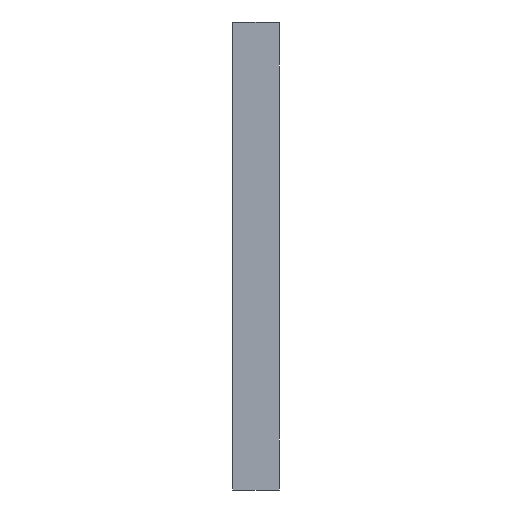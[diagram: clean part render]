
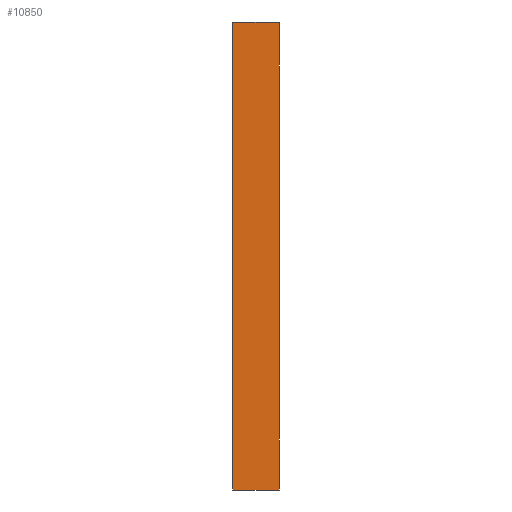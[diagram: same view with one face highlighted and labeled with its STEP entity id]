
A CAD part, left-side view. The second image highlights one B-rep face of the part: STEP entity #10850.
In plain terms, the highlighted planar face has unit normal (-1, 0, 0).
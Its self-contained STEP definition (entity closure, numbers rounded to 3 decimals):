
#3078=ORIENTED_EDGE('',*,*,#4660,.T.);
#3079=ORIENTED_EDGE('',*,*,#4664,.F.);
#3080=ORIENTED_EDGE('',*,*,#4637,.F.);
#3081=ORIENTED_EDGE('',*,*,#4670,.T.);
#4637=EDGE_CURVE('',#5689,#5690,#7211,.T.);
#4660=EDGE_CURVE('',#5712,#5711,#7228,.T.);
#4664=EDGE_CURVE('',#5690,#5711,#7232,.T.);
#4670=EDGE_CURVE('',#5689,#5712,#7238,.T.);
#5689=VERTEX_POINT('',#17013);
#5690=VERTEX_POINT('',#17015);
#5711=VERTEX_POINT('',#17059);
#5712=VERTEX_POINT('',#17061);
#7211=LINE('',#17014,#8747);
#7228=LINE('',#17060,#8764);
#7232=LINE('',#17067,#8768);
#7238=LINE('',#17079,#8774);
#8747=VECTOR('',#13912,1000.);
#8764=VECTOR('',#13943,1000.);
#8768=VECTOR('',#13949,1000.);
#8774=VECTOR('',#13967,1000.);
#9296=EDGE_LOOP('',(#3078,#3079,#3080,#3081));
#9820=FACE_BOUND('',#9296,.T.);
#10336=PLANE('',#11393);
#10850=ADVANCED_FACE('',(#9820),#10336,.F.);
#11393=AXIS2_PLACEMENT_3D('',#17078,#13965,#13966);
#13912=DIRECTION('',(0.,0.,1.));
#13943=DIRECTION('',(0.,0.,1.));
#13949=DIRECTION('',(0.,-1.,0.));
#13965=DIRECTION('',(1.,0.,0.));
#13966=DIRECTION('',(0.,0.,-1.));
#13967=DIRECTION('',(0.,-1.,0.));
#17013=CARTESIAN_POINT('',(-177.,4.,-20.));
#17014=CARTESIAN_POINT('',(-177.,4.,-20.));
#17015=CARTESIAN_POINT('',(-177.,4.,20.));
#17059=CARTESIAN_POINT('',(-177.,0.,20.));
#17060=CARTESIAN_POINT('',(-177.,0.,-20.));
#17061=CARTESIAN_POINT('',(-177.,0.,-20.));
#17067=CARTESIAN_POINT('',(-177.,4.,20.));
#17078=CARTESIAN_POINT('',(-177.,4.,-20.));
#17079=CARTESIAN_POINT('',(-177.,4.,-20.));
